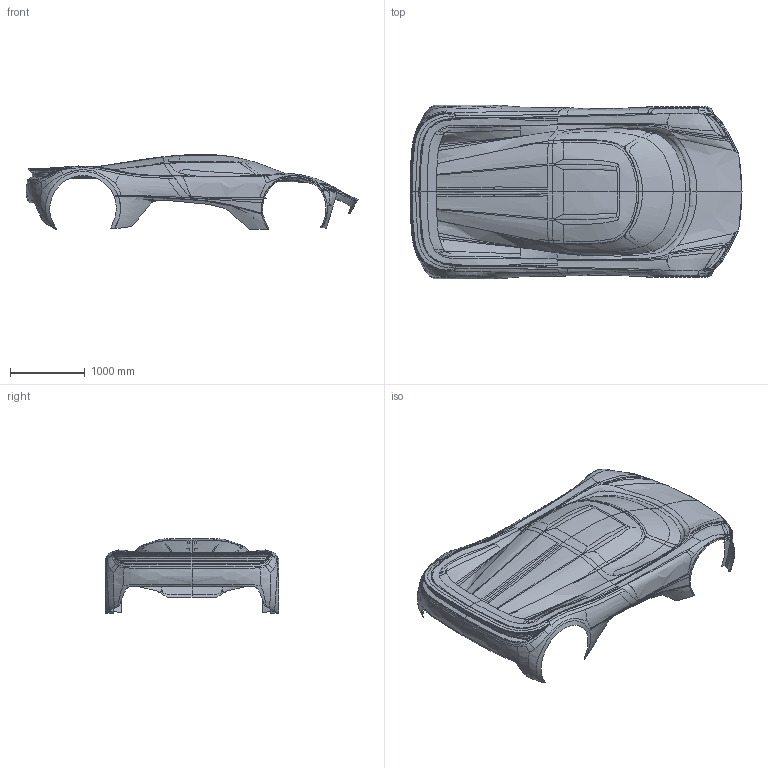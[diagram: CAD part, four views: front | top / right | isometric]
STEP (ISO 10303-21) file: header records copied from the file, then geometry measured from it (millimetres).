
FILE_DESCRIPTION(('Liger macro NURBS open sheets'),'2;1');
FILE_NAME('Liger_Macro_CAD.step','2026-11-01T00:00:00',(''),(''),'Slate','SolidArc','');
FILE_SCHEMA(('AUTOMOTIVE_DESIGN { 1 0 10303 214 1 1 1 1 }'));
Length unit declared in the file: millimetre
Products named in the file (1): Liger_Macro_CAD
Bounding box: 4440.2 x 2322.25 x 1000.86 mm (x, y, z)
Surface area: 15641962.9 mm2 (no closed solid volume)
Topology: 0 solids, 8 shells, 312 faces, 912 edges, 595 vertices
Faces by surface type: bspline 312
Entity records: 51887 total; most frequent: CARTESIAN_POINT 46535, ORIENTED_EDGE 1662, B_SPLINE_CURVE_WITH_KNOTS 912, EDGE_CURVE 912, VERTEX_POINT 595, B_SPLINE_SURFACE_WITH_KNOTS 312, EDGE_LOOP 312, FACE_OUTER_BOUND 312
